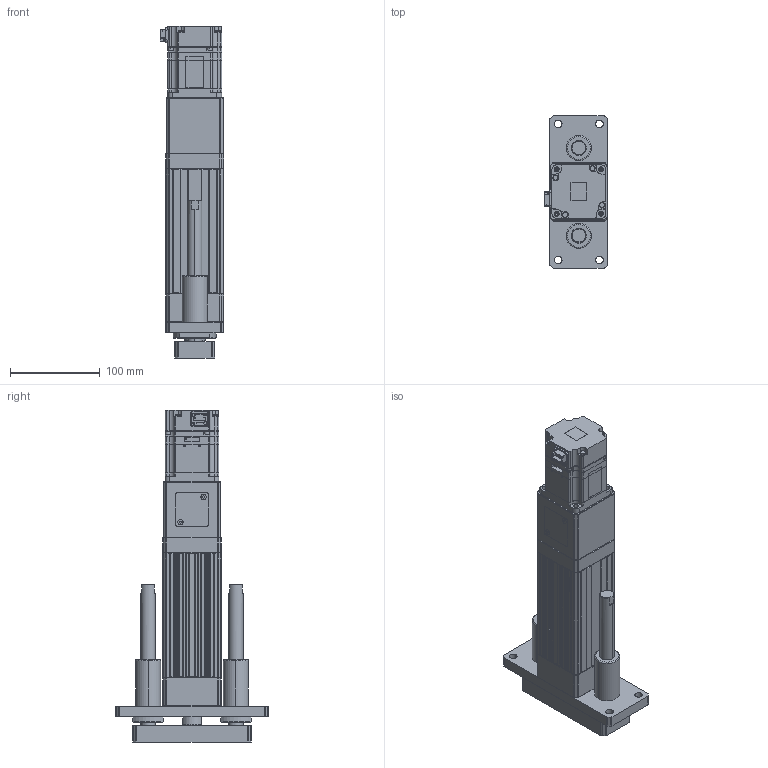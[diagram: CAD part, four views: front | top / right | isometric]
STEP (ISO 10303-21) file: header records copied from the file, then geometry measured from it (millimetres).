
FILE_DESCRIPTION (( 'STEP AP203' ), '1' );
FILE_NAME ('ANS065-GS050-05(10)-W20.STEP', '2019-02-28T08:27:24', ( 'user' ), ( '' ), 'SwSTEP 2.0', 'SolidWorks 2013', '' );
FILE_SCHEMA (( 'CONFIG_CONTROL_DESIGN' ));
Length unit declared in the file: millimetre
Products named in the file (4): ANS065 GS050 VER2; ANS065 ROD ST050 G; sgmjv_02a_a21; ANS065-GS050-05(10)-W20
Assembly tree (3 placements, depth 2):
  ANS065-GS050-05(10)-W20
    ANS065 GS050 VER2
    ANS065 ROD ST050 G
    sgmjv_02a_a21
Bounding box: 71.3 x 170 x 370.6 mm (x, y, z)
Volume: 1254195.6 mm3; surface area: 265145.8 mm2
Topology: 3 solids, 19 shells, 1500 faces, 3817 edges, 2439 vertices
Faces by surface type: plane 832, cylinder 482, cone 182, torus 4
Entity records: 45333 total; most frequent: CARTESIAN_POINT 7996, DIRECTION 7837, ORIENTED_EDGE 7570, EDGE_CURVE 3785, AXIS2_PLACEMENT_3D 2626, LINE 2585, VECTOR 2585, VERTEX_POINT 2439
